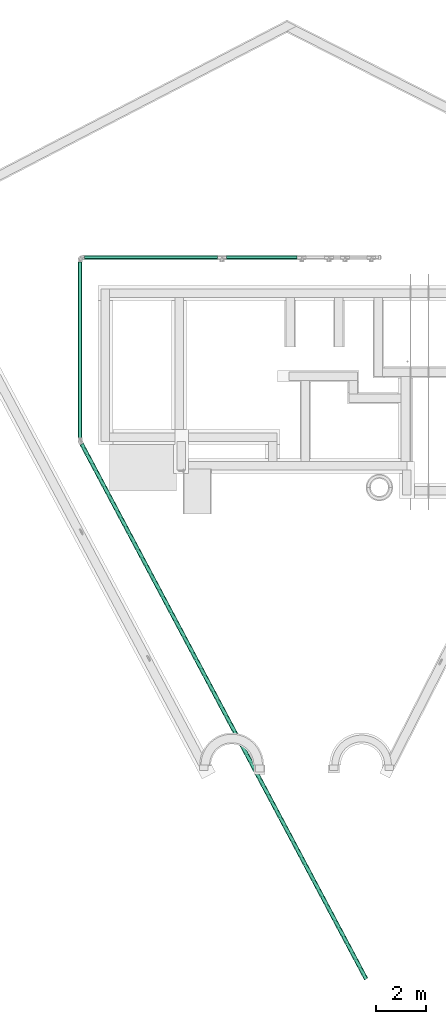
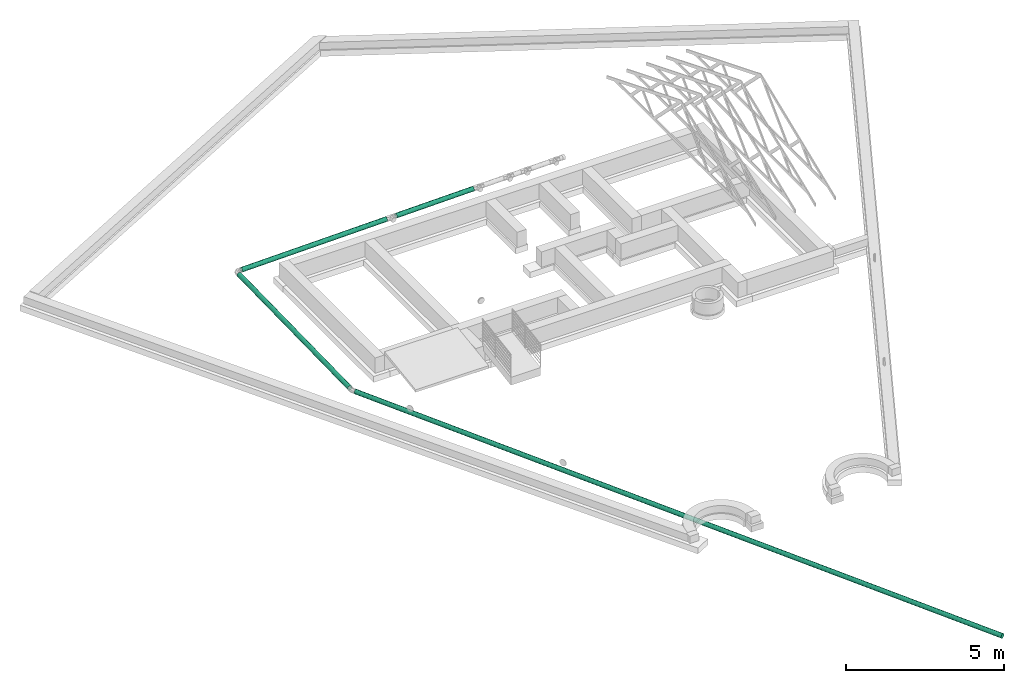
# One storey, part 5 of 8: 4 flow segments.
"""IFC2X3 building model written with IfcOpenShell, lengths in millimetres."""

import ifcopenshell
import ifcopenshell.guid

model = None  # the IFC model being written
_history = None  # IfcOwnerHistory: only IFC2X3 demands one
_inside = {}  # id of a spatial element -> (the spatial element, [elements in it])
_under = {}  # id of a project, library or spatial element -> (it, [spatial elements below it])
_declared = {}  # id of a project -> (the project, [libraries it declares])
_typed = {}  # id of a type object -> (the type object, [elements of that type])
_made_of = {}  # id of a material, layer set ... -> (it, [elements and type objects made of it])


def new_model(schema):
    """Start an empty IFC model of exactly this schema.

    Asked for "IFC4X3", IfcOpenShell would pick the latest addendum, in which some entities
    have other attributes; the version numbers below select the first issue.
    IFC2X3 requires an IfcOwnerHistory on every rooted entity: one is made here for all.
    """
    global model, _history
    if schema == "IFC4X3":
        model = ifcopenshell.file(schema_version=(4, 3, 0, 0))
    else:
        model = ifcopenshell.file(schema=schema)
    _inside.clear()
    _under.clear()
    _declared.clear()
    _typed.clear()
    _made_of.clear()
    _history = None
    if model.schema == "IFC2X3":
        org = make("IfcOrganization", Name="unknown")
        user = make(
            "IfcPersonAndOrganization",
            ThePerson=make("IfcPerson", FamilyName="unknown"),
            TheOrganization=org,
        )
        app = make(
            "IfcApplication",
            ApplicationDeveloper=org,
            Version="unknown",
            ApplicationFullName="unknown",
            ApplicationIdentifier="unknown",
        )
        _history = make(
            "IfcOwnerHistory",
            OwningUser=user,
            OwningApplication=app,
            ChangeAction="ADDED",
            CreationDate=0,
        )
    return model


def make(cls, **values):
    """One entity of the class cls with the attributes given. An attribute that is None is left unset."""
    return model.create_entity(
        cls, **{name: value for name, value in values.items() if value is not None}
    )


def entity(cls, *values):
    """Any entity or typed value of the class cls, its attributes in the order of the schema. None: left unset."""
    e = model.create_entity(cls)
    for i, value in enumerate(values):
        if value is not None:
            e[i] = value
    return e


def rooted(cls, **values):
    """An entity with a GlobalId (a new one), such as an element, a storey or a relation."""
    return make(cls, GlobalId=ifcopenshell.guid.new(), OwnerHistory=_history, **values)


def si_unit(unit_type, name, prefix=None):
    """IfcSIUnit, for example si_unit("LENGTHUNIT", "METRE", prefix="MILLI")."""
    return make("IfcSIUnit", UnitType=unit_type, Prefix=prefix, Name=name)


def converted_unit(unit_type, name, factor, base, dimensions=None, offset=None):
    """IfcConversionBasedUnit, such as the inch: factor (a typed value) times the base unit."""
    return make(
        "IfcConversionBasedUnit"
        if offset is None
        else "IfcConversionBasedUnitWithOffset",
        ConversionOffset=offset,
        Dimensions=None
        if dimensions is None
        else entity("IfcDimensionalExponents", *dimensions),
        UnitType=unit_type,
        Name=name,
        ConversionFactor=make(
            "IfcMeasureWithUnit", ValueComponent=factor, UnitComponent=base
        ),
    )


def derived_unit(unit_type, elements):
    """IfcDerivedUnit: a product of units, each with its exponent."""
    return make(
        "IfcDerivedUnit",
        Elements=[
            make("IfcDerivedUnitElement", Unit=unit, Exponent=power)
            for unit, power in elements
        ],
        UnitType=unit_type,
    )


def assignment(units):
    """IfcUnitAssignment: the units of a project."""
    return None if units is None else make("IfcUnitAssignment", Units=units)


def point(xyz):
    """IfcCartesianPoint."""
    return None if xyz is None else make("IfcCartesianPoint", Coordinates=xyz)


def direction(xyz):
    """IfcDirection."""
    return None if xyz is None else make("IfcDirection", DirectionRatios=xyz)


def frame(location, z_axis=None, x_axis=None):
    """IfcAxis2Placement3D, a coordinate frame: its origin and axes. An axis left out is left unset."""
    return make(
        "IfcAxis2Placement3D",
        Location=point(location),
        Axis=direction(z_axis),
        RefDirection=direction(x_axis),
    )


def frame_2d(location, x_axis=None):
    """IfcAxis2Placement2D, a coordinate frame in the plane: its origin and x axis."""
    return make(
        "IfcAxis2Placement2D", Location=point(location), RefDirection=direction(x_axis)
    )


def origin():
    """The frame at (0, 0, 0) with its axes left unset."""
    return frame((0.0, 0.0, 0.0))


def place(relative_to, where):
    """IfcLocalPlacement: puts the frame where relative to a parent placement (None: the world)."""
    return make(
        "IfcLocalPlacement", PlacementRelTo=relative_to, RelativePlacement=where
    )


def context(
    kind, dimensions, precision=None, world=None, true_north=None, identifier=None
):
    """IfcGeometricRepresentationContext, for example the 3D "Model" context."""
    return make(
        "IfcGeometricRepresentationContext",
        ContextIdentifier=identifier,
        ContextType=kind,
        CoordinateSpaceDimension=dimensions,
        Precision=precision,
        WorldCoordinateSystem=world,
        TrueNorth=true_north,
    )


def subcontext(parent, identifier, kind, view, scale=None):
    """IfcGeometricRepresentationSubContext, for example "Body" below "Model"."""
    return make(
        "IfcGeometricRepresentationSubContext",
        ContextIdentifier=identifier,
        ContextType=kind,
        ParentContext=parent,
        TargetScale=scale,
        TargetView=view,
    )


def project(units=None, contexts=None):
    """IfcProject with its units and contexts."""
    return rooted(
        "IfcProject",
        Name="project",
        RepresentationContexts=contexts,
        UnitsInContext=assignment(units),
    )


def spatial(cls, under=None, at=None, **own):
    """A site, building, storey or space (cls), placed at a placement, below another one or the project."""
    s = rooted(cls, ObjectPlacement=at, **own)
    if under is not None:
        _under.setdefault(under.id(), (under, []))[1].append(s)
    return s


def profile(cls, at=None, kind="AREA", **sizes):
    """A parametric profile (cls). Its sizes go by their IFC names, for example OverallWidth=200.0."""
    return make(cls, ProfileType=kind, Position=at, **sizes)


def circle(**sizes):
    """IfcCircleProfileDef."""
    return profile("IfcCircleProfileDef", **sizes)


def extrude(swept, where, along, depth):
    """IfcExtrudedAreaSolid: the profile swept, set in the frame where, extruded along a direction by depth."""
    return make(
        "IfcExtrudedAreaSolid",
        SweptArea=swept,
        Position=where,
        ExtrudedDirection=direction(along),
        Depth=depth,
    )


def shape(context_of_items, identifier, shape_type, items):
    """IfcShapeRepresentation: the items that make up one representation, for example the "Body"."""
    return make(
        "IfcShapeRepresentation",
        ContextOfItems=context_of_items,
        RepresentationIdentifier=identifier,
        RepresentationType=shape_type,
        Items=items,
    )


def made_of(thing, what):
    """Note that an element or type object is made of a material, layer set ...; save() writes the relation."""
    if what is not None:
        _made_of.setdefault(what.id(), (what, []))[1].append(thing)
    return thing


def type_object(cls, material=None, **own):
    """A type object (cls), such as IfcWallType, which elements share."""
    return made_of(rooted(cls, **own), material)


def element(
    cls,
    number,
    at=None,
    inside=None,
    cuts=None,
    type_object=None,
    material=None,
    context=None,
    identifier="Body",
    shape_type=None,
    held_by="IfcProductDefinitionShape",
    body=None,
    shapes=None,
    **own,
):
    """One element of the class cls, such as IfcWall. Its Tag is "e" and its number.

    at: its placement. inside: the storey or other place that contains it. cuts: it is an
    opening in that element (IfcRelVoidsElement). A single representation is given by context,
    identifier, shape_type and body (its items); several are given by shapes. held_by: the class
    of the entity that holds the representations. save() writes the other relations.
    """
    e = rooted(cls, Tag="e%d" % number, ObjectPlacement=at, **own)
    if body is not None:
        shapes = [shape(context, identifier, shape_type, body)]
    if shapes is not None:
        e.Representation = make(held_by, Representations=shapes)
    if inside is not None:
        _inside.setdefault(inside.id(), (inside, []))[1].append(e)
    if cuts is not None:
        rooted(
            "IfcRelVoidsElement", RelatingBuildingElement=cuts, RelatedOpeningElement=e
        )
    if type_object is not None:
        _typed.setdefault(type_object.id(), (type_object, []))[1].append(e)
    return made_of(e, material)


def aggregate(whole, parts):
    """IfcRelAggregates: a whole, such as a stair, and the parts it consists of."""
    return rooted("IfcRelAggregates", RelatingObject=whole, RelatedObjects=parts)


def save(model, path):
    """Write the relations noted so far, then the file.

    IfcRelAggregates (storeys below a building ...), IfcRelContainedInSpatialStructure (elements
    in a storey), IfcRelDefinesByType, IfcRelAssociatesMaterial and IfcRelDeclares: one each for
    every whole, place, type object, material and project.
    """
    for whole, parts in _under.values():
        aggregate(whole, parts)
    for where, things in _inside.values():
        rooted(
            "IfcRelContainedInSpatialStructure",
            RelatedElements=things,
            RelatingStructure=where,
        )
    for kind, things in _typed.values():
        rooted("IfcRelDefinesByType", RelatedObjects=things, RelatingType=kind)
    for what, things in _made_of.values():
        rooted("IfcRelAssociatesMaterial", RelatedObjects=things, RelatingMaterial=what)
    for by, libraries in _declared.values():
        rooted("IfcRelDeclares", RelatingContext=by, RelatedDefinitions=libraries)
    model.write(path)


model = new_model("IFC2X3")

# Units and contexts
model_context = context("Model", 3, precision=0.01, world=origin(), true_north=direction((6.12303176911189e-17, 1.0)))
body_context = subcontext(model_context, "Body", "Model", "MODEL_VIEW")
ifc_project = project(units=[si_unit("LENGTHUNIT", "METRE", prefix="MILLI"), si_unit("AREAUNIT", "SQUARE_METRE"), si_unit("VOLUMEUNIT", "CUBIC_METRE"), converted_unit("PLANEANGLEUNIT", "DEGREE", entity("IfcRatioMeasure", 0.0174532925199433), si_unit("PLANEANGLEUNIT", "RADIAN"), dimensions=[0, 0, 0, 0, 0, 0, 0]), si_unit("MASSUNIT", "GRAM", prefix="KILO"), derived_unit("MASSDENSITYUNIT", [(si_unit("MASSUNIT", "GRAM", prefix="KILO"), 1), (si_unit("LENGTHUNIT", "METRE"), -3)]), si_unit("TIMEUNIT", "SECOND"), si_unit("FREQUENCYUNIT", "HERTZ"), si_unit("THERMODYNAMICTEMPERATUREUNIT", "DEGREE_CELSIUS"), derived_unit("THERMALTRANSMITTANCEUNIT", [(si_unit("MASSUNIT", "GRAM", prefix="KILO"), 1), (si_unit("THERMODYNAMICTEMPERATUREUNIT", "KELVIN"), -1), (si_unit("TIMEUNIT", "SECOND"), -3)]), derived_unit("VOLUMETRICFLOWRATEUNIT", [(si_unit("LENGTHUNIT", "METRE"), 3), (si_unit("TIMEUNIT", "SECOND"), -1)]), si_unit("ELECTRICCURRENTUNIT", "AMPERE"), si_unit("ELECTRICVOLTAGEUNIT", "VOLT"), si_unit("POWERUNIT", "WATT"), si_unit("FORCEUNIT", "NEWTON", prefix="KILO"), si_unit("ILLUMINANCEUNIT", "LUX"), si_unit("LUMINOUSFLUXUNIT", "LUMEN"), si_unit("LUMINOUSINTENSITYUNIT", "CANDELA"), derived_unit("USERDEFINED", [(si_unit("MASSUNIT", "GRAM", prefix="KILO"), -1), (si_unit("LENGTHUNIT", "METRE"), -2), (si_unit("TIMEUNIT", "SECOND"), 3), (si_unit("LUMINOUSFLUXUNIT", "LUMEN"), 1)]), derived_unit("LINEARVELOCITYUNIT", [(si_unit("LENGTHUNIT", "METRE"), 1), (si_unit("TIMEUNIT", "SECOND"), -1)]), si_unit("PRESSUREUNIT", "PASCAL"), derived_unit("USERDEFINED", [(si_unit("LENGTHUNIT", "METRE"), -2), (si_unit("MASSUNIT", "GRAM", prefix="KILO"), 1), (si_unit("TIMEUNIT", "SECOND"), -2)])], contexts=[model_context])

# Site, building, storey
site_placement = place(None, origin())
site = spatial("IfcSite", under=ifc_project, at=site_placement, Name="Surface", CompositionType="ELEMENT")
building_placement = place(site_placement, origin())
building = spatial("IfcBuilding", under=site, at=building_placement, CompositionType="ELEMENT")
storey_placement = place(building_placement, frame((0.0, 0.0, -445.0)))
storey = spatial("IfcBuildingStorey", under=building, at=storey_placement, Name="T.O.F", CompositionType="ELEMENT", Elevation=-445.0)

# Flow segments
pipe_segment_type = type_object("IfcPipeSegmentType", Name="Pipe Types:PVC80", PredefinedType="NOTDEFINED")
flow_segment_1_placement = place(storey_placement, origin())
element("IfcFlowSegment", 1, at=flow_segment_1_placement, inside=storey, type_object=pipe_segment_type, Name="Pipe Types:PVC80", ObjectType="Pipe Types:PVC80", context=body_context, shape_type="SweptSolid", body=[
    extrude(circle(Radius=84.1375, at=frame_2d((0.0, -1.35331327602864e-13), x_axis=(1.0, 0.0))), frame((-12929.117054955, 4877.88138146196, -361.137731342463), z_axis=(0.0, 0.999800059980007, 0.0199960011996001), x_axis=(-1.0, 0.0, 0.0)), (0.0, 0.0, 1.0), 7023.21107961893),
])
flow_segment_2_placement = place(storey_placement, origin())
element("IfcFlowSegment", 2, at=flow_segment_2_placement, inside=storey, type_object=pipe_segment_type, Name="Pipe Types:PVC80", ObjectType="Pipe Types:PVC80", context=body_context, shape_type="SweptSolid", body=[
    extrude(circle(Radius=84.1375, at=frame_2d((5.38693184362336e-13, -2.2734106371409e-13), x_axis=(1.0, 0.0))), frame((-1495.90105678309, -16758.1938683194, -850.893021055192), z_axis=(-0.469377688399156, 0.882771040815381, 0.0199968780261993), x_axis=(-0.882947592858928, -0.469471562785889, 0.0)), (0.0, 0.0, 1.0), 24224.893437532),
])
flow_segment_3_placement = place(storey_placement, origin())
element("IfcFlowSegment", 3, at=flow_segment_3_placement, inside=storey, type_object=pipe_segment_type, Name="Pipe Types:PVC80", ObjectType="Pipe Types:PVC80", context=body_context, shape_type="SweptSolid", body=[
    extrude(circle(Radius=84.1375, at=frame_2d((0.0, -1.35331327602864e-13), x_axis=(1.0, 0.0))), frame((-12747.421765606, 12081.3835294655, -213.433782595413), z_axis=(0.999800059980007, 0.0, 0.0199960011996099), x_axis=(0.0, 1.0, 0.0)), (0.0, 0.0, 1.0), 5313.2987318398),
])
flow_segment_4_placement = place(storey_placement, origin())
element("IfcFlowSegment", 4, at=flow_segment_4_placement, inside=storey, type_object=pipe_segment_type, Name="Pipe Types:PVC80", ObjectType="Pipe Types:PVC80", context=body_context, shape_type="SweptSolid", body=[
    extrude(circle(Radius=84.1375, at=frame_2d((0.0, -6.76656638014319e-14), x_axis=(1.0, 0.0))), frame((-7079.65647349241, 12081.3835294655, -100.078476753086), z_axis=(0.999800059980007, 0.0, 0.0199960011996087), x_axis=(0.0, 1.0, 0.0)), (0.0, 0.0, 1.0), 2828.86463913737),
])

save(model, "model.ifc")
